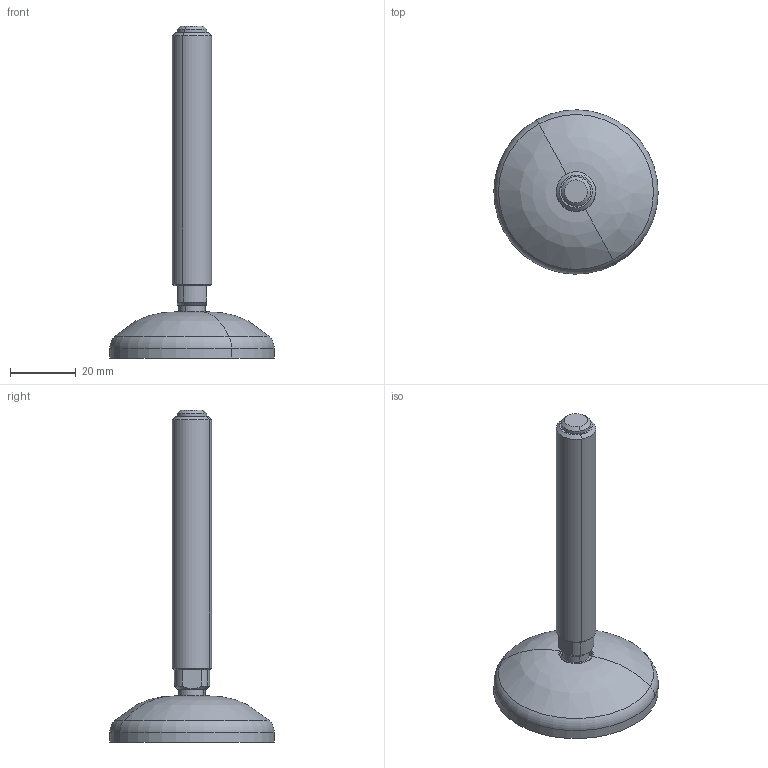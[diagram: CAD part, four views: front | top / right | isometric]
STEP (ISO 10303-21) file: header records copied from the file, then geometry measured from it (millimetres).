
FILE_DESCRIPTION(('STEP AP214'),'1');
FILE_NAME('Parte0','2017-01-03T14:29:16',('dentellad'),(' '),'Spatial InterOp 3D',' ',' ');
FILE_SCHEMA(('automotive_design'));
Length unit declared in the file: millimetre
Products named in the file (2): 1; 2
Bounding box: 49.99 x 49.99 x 101 mm (x, y, z)
Volume: 29947.8 mm3; surface area: 8789.9 mm2
Topology: 2 solids, 2 shells, 48 faces, 101 edges, 56 vertices
Faces by surface type: cylinder 18, cone 9, torus 8, plane 7, sphere 4, revolution 2
Entity records: 2196 total; most frequent: DIRECTION 257, CARTESIAN_POINT 235, ORIENTED_EDGE 194, STYLED_ITEM 146, PRESENTATION_STYLE_ASSIGNMENT 146, COLOUR_RGB 146, AXIS2_PLACEMENT_3D 112, EDGE_CURVE 97
